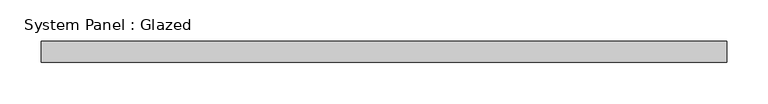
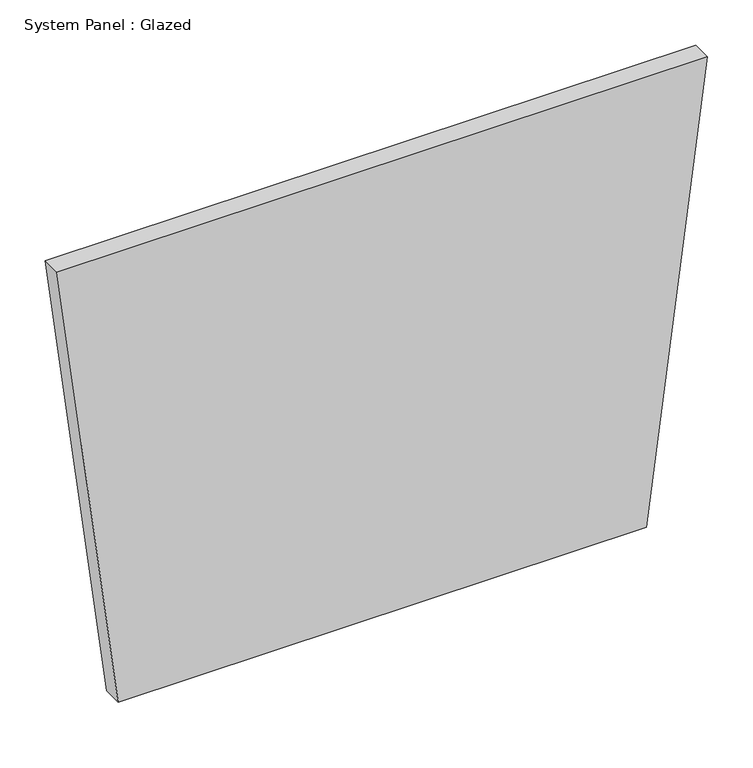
"""IFC4 building model written with IfcOpenShell, lengths in millimetres: plate geometry, System Panel : Glazed."""

from ifc_helpers import new_model, si_unit, frame, origin, place, context, project, spatial, polyline, outline, extrude, source, transform, mapped, element, save


def system_panel_glazed_37435722(model_context):
    return source(origin(), model_context, "Body", "SweptSolid", [
        extrude(outline(polyline([(0.0, -335.8518257), (0.0, 335.8518257), (604.6380348, 413.4727432), (604.6380348, -413.4727432), (0.0, -335.8518257)])), frame((0.0, -44.45, 0.0), z_axis=(0.0, 1.0, 0.0), x_axis=(0.0, 0.0, 1.0)), (0.0, 0.0, 1.0), 25.4),
    ])


if __name__ == "__main__":
    model = new_model("IFC4")
    model_context = context("Model", 3, world=origin())
    ifc_project = project(units=[si_unit("LENGTHUNIT", "METRE", prefix="MILLI")], contexts=[model_context])
    site = spatial("IfcSite", under=ifc_project)
    building = spatial("IfcBuilding", under=site)
    placement = place(None, origin())
    system_panel_glazed_shape = system_panel_glazed_37435722(model_context)
    element("IfcPlate", 1, ObjectType="System Panel : Glazed", at=placement, inside=building, context=model_context, shape_type="MappedRepresentation", body=[
        mapped(system_panel_glazed_shape, transform((0.0, 0.0, 0.0), x_axis=(1.0, 0.0, 0.0), y_axis=(0.0, 1.0, 0.0), z_axis=(0.0, 0.0, 1.0))),
    ])
    save(model, "model.ifc")
